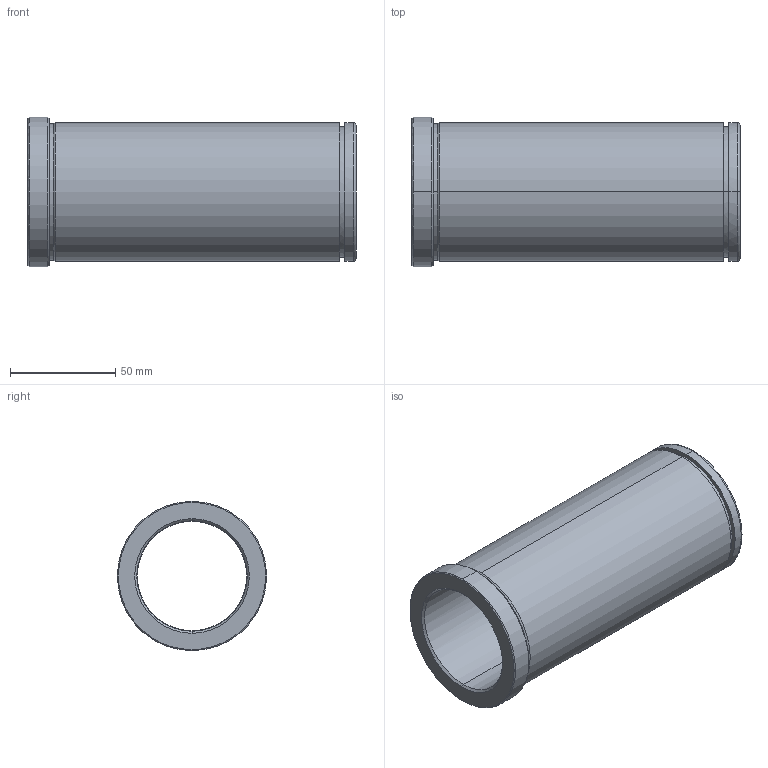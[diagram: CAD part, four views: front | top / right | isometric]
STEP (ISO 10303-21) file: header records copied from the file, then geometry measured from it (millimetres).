
FILE_DESCRIPTION(('CATIA V5 STEP Exchange'),'2;1');
FILE_NAME('C:\Users\Utente\Desktop\IO LAVORO\3D X SITO CF\X SITO\PLASTICA\553\553-52X156.stp','2021-06-08T18:00:09+00:00',('none'),('none'),'CATIA Version 5 Release 20 GA (IN-10)','CATIA V5 STEP AP203','none');
FILE_SCHEMA(('CONFIG_CONTROL_DESIGN'));
Length unit declared in the file: millimetre
Products named in the file (1): 553-52X156
Bounding box: 156 x 71 x 71 mm (x, y, z)
Volume: 204402.7 mm3; surface area: 62108.5 mm2
Topology: 1 solids, 1 shells, 32 faces, 102 edges, 76 vertices
Faces by surface type: cylinder 14, cone 8, plane 6, torus 4
Entity records: 1340 total; most frequent: CARTESIAN_POINT 395, ORIENTED_EDGE 204, DIRECTION 152, EDGE_CURVE 102, AXIS2_PLACEMENT_3D 99, VERTEX_POINT 76, CIRCLE 66, EDGE_LOOP 38
